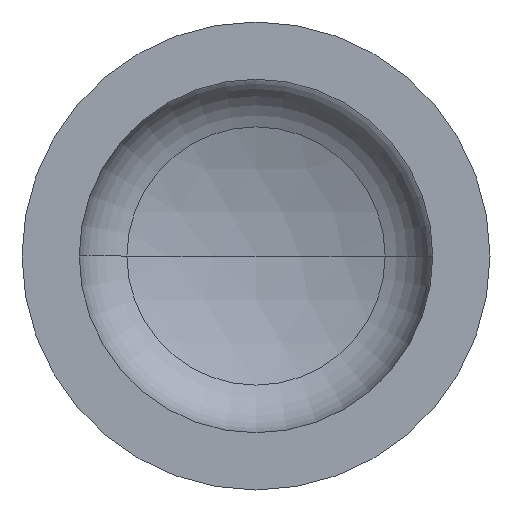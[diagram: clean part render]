
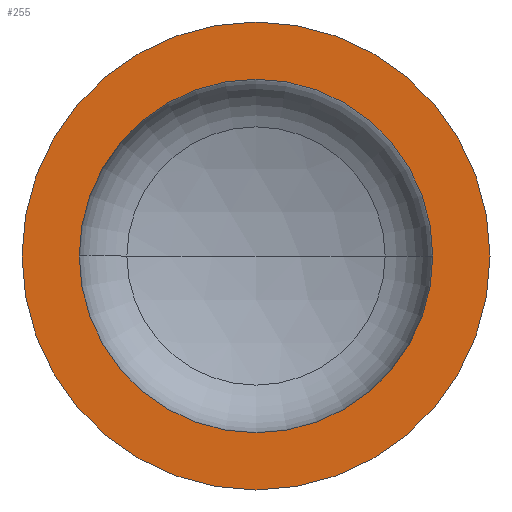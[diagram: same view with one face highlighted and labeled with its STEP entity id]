
A CAD part, front view. The second image highlights one B-rep face of the part: STEP entity #255.
In plain terms, the highlighted planar face has unit normal (0, -1, 0).
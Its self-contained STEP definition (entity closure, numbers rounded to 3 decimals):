
#6 = EDGE_LOOP ( 'NONE', ( #66, #12 ) ) ;
#12 = ORIENTED_EDGE ( 'NONE', *, *, #321, .F. ) ;
#21 = AXIS2_PLACEMENT_3D ( 'NONE', #221, #258, #61 ) ;
#25 = VERTEX_POINT ( 'NONE', #356 ) ;
#26 = AXIS2_PLACEMENT_3D ( 'NONE', #139, #140, #198 ) ;
#58 = ORIENTED_EDGE ( 'NONE', *, *, #96, .T. ) ;
#61 = DIRECTION ( 'NONE',  ( -1., 0., 0. ) ) ;
#63 = VERTEX_POINT ( 'NONE', #230 ) ;
#65 = PLANE ( 'NONE',  #21 ) ;
#66 = ORIENTED_EDGE ( 'NONE', *, *, #97, .F. ) ;
#82 = AXIS2_PLACEMENT_3D ( 'NONE', #297, #170, #190 ) ;
#85 = AXIS2_PLACEMENT_3D ( 'NONE', #307, #306, #299 ) ;
#93 = CIRCLE ( 'NONE', #26, 340. ) ;
#96 = EDGE_CURVE ( 'NONE', #382, #25, #210, .T. ) ;
#97 = EDGE_CURVE ( 'NONE', #298, #63, #261, .T. ) ;
#139 = CARTESIAN_POINT ( 'NONE',  ( 0., 0., 0. ) ) ;
#140 = DIRECTION ( 'NONE',  ( 0., -1., 0. ) ) ;
#151 = DIRECTION ( 'NONE',  ( 1., 0., 0. ) ) ;
#159 = EDGE_LOOP ( 'NONE', ( #359, #58 ) ) ;
#170 = DIRECTION ( 'NONE',  ( 0., -1., 0. ) ) ;
#176 = FACE_BOUND ( 'NONE', #6, .T. ) ;
#177 = CARTESIAN_POINT ( 'NONE',  ( 0., 0., 0. ) ) ;
#190 = DIRECTION ( 'NONE',  ( 1., 0., 0. ) ) ;
#198 = DIRECTION ( 'NONE',  ( 1., 0., 0. ) ) ;
#210 = CIRCLE ( 'NONE', #85, 450. ) ;
#213 = CIRCLE ( 'NONE', #395, 450. ) ;
#221 = CARTESIAN_POINT ( 'NONE',  ( -450., 0., 0. ) ) ;
#230 = CARTESIAN_POINT ( 'NONE',  ( -340., 0., 0. ) ) ;
#255 = ADVANCED_FACE ( 'NONE', ( #176, #357 ), #65, .F. ) ;
#258 = DIRECTION ( 'NONE',  ( 0., 1., 0. ) ) ;
#261 = CIRCLE ( 'NONE', #82, 340. ) ;
#273 = CARTESIAN_POINT ( 'NONE',  ( -450., 0., 0. ) ) ;
#294 = DIRECTION ( 'NONE',  ( 0., -1., 0. ) ) ;
#297 = CARTESIAN_POINT ( 'NONE',  ( 0., 0., 0. ) ) ;
#298 = VERTEX_POINT ( 'NONE', #384 ) ;
#299 = DIRECTION ( 'NONE',  ( 1., 0., 0. ) ) ;
#306 = DIRECTION ( 'NONE',  ( 0., -1., 0. ) ) ;
#307 = CARTESIAN_POINT ( 'NONE',  ( 0., 0., 0. ) ) ;
#321 = EDGE_CURVE ( 'NONE', #63, #298, #93, .T. ) ;
#352 = EDGE_CURVE ( 'NONE', #25, #382, #213, .T. ) ;
#356 = CARTESIAN_POINT ( 'NONE',  ( 450., 0., 0. ) ) ;
#357 = FACE_OUTER_BOUND ( 'NONE', #159, .T. ) ;
#359 = ORIENTED_EDGE ( 'NONE', *, *, #352, .T. ) ;
#382 = VERTEX_POINT ( 'NONE', #273 ) ;
#384 = CARTESIAN_POINT ( 'NONE',  ( 340., 0., 0. ) ) ;
#395 = AXIS2_PLACEMENT_3D ( 'NONE', #177, #294, #151 ) ;
